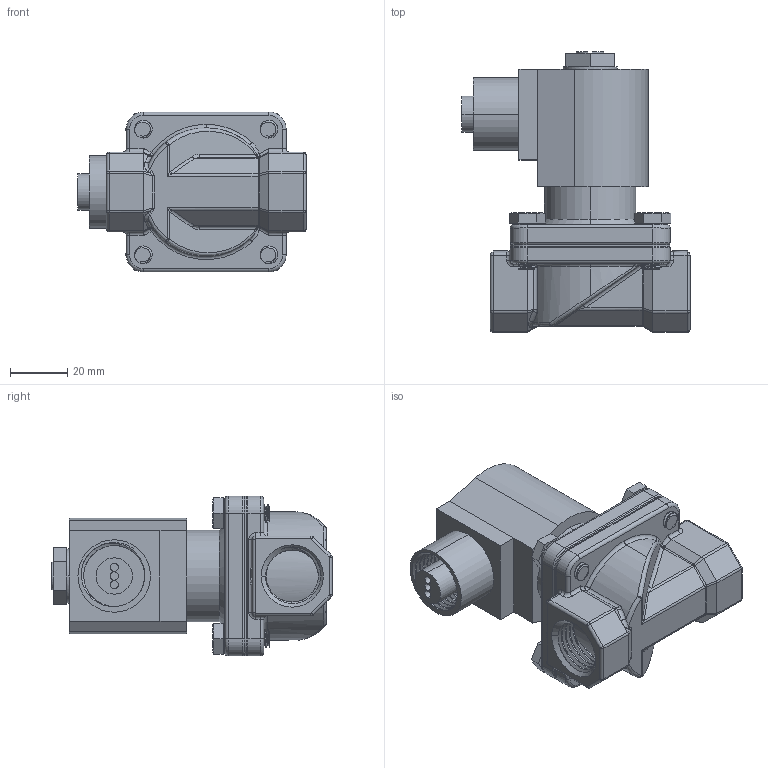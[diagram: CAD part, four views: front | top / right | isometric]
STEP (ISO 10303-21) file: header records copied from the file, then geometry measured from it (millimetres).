
FILE_DESCRIPTION (( 'STEP AP203' ), '1' );
FILE_NAME ('S211Gx15xDG4.STEP', '2024-02-26T15:40:11', ( '' ), ( '' ), 'SwSTEP 2.0', 'SolidWorks 2023', '' );
FILE_SCHEMA (( 'CONFIG_CONTROL_DESIGN' ));
Length unit declared in the file: millimetre
Products named in the file (1): S211Gx15xDG4
Bounding box: 79.91 x 98.22 x 56.01 mm (x, y, z)
Volume: 163558.1 mm3; surface area: 30394.4 mm2
Topology: 1 solids, 1 shells, 511 faces, 1275 edges, 783 vertices
Faces by surface type: cylinder 188, plane 175, bspline 83, torus 41, cone 16, sphere 8
Entity records: 29534 total; most frequent: CARTESIAN_POINT 18356, ORIENTED_EDGE 2534, DIRECTION 2099, EDGE_CURVE 1267, VERTEX_POINT 783, AXIS2_PLACEMENT_3D 781, LINE 537, VECTOR 537
